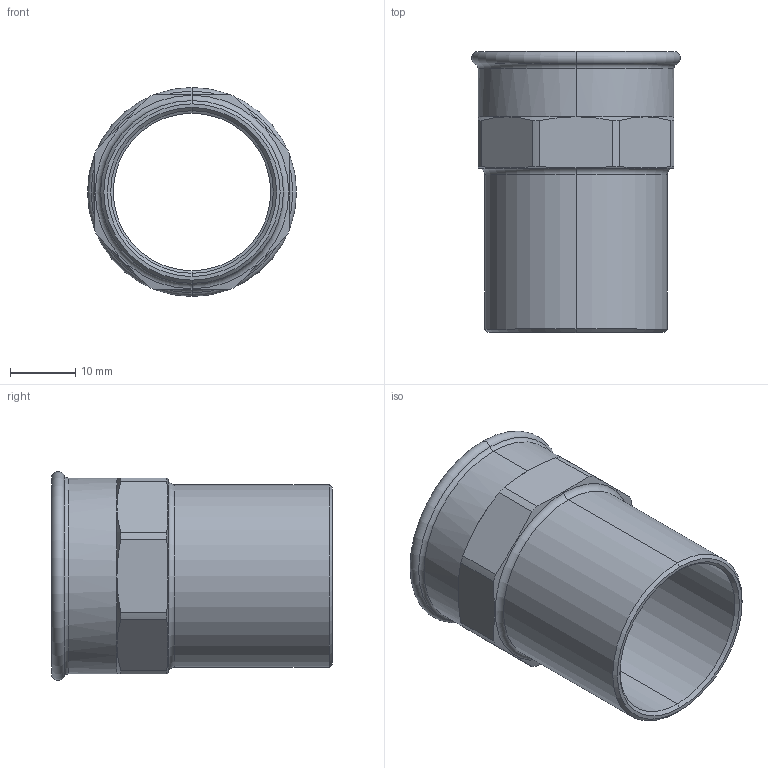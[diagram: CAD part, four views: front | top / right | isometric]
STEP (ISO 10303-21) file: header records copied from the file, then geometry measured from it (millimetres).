
FILE_DESCRIPTION (( 'STEP AP203' ), '1' );
FILE_NAME ('SP4281G Ø28 3-4.STEP', '2017-04-26T09:16:27', ( '' ), ( '' ), 'SwSTEP 2.0', 'SolidWorks 2016', '' );
FILE_SCHEMA (( 'CONFIG_CONTROL_DESIGN' ));
Length unit declared in the file: millimetre
Products named in the file (1): SP4281G Ø28 3-4
Bounding box: 32 x 43 x 32 mm (x, y, z)
Volume: 7909.3 mm3; surface area: 7754.3 mm2
Topology: 1 solids, 1 shells, 50 faces, 116 edges, 68 vertices
Faces by surface type: cone 18, cylinder 16, plane 10, torus 6
Entity records: 1567 total; most frequent: CARTESIAN_POINT 361, DIRECTION 248, ORIENTED_EDGE 232, EDGE_CURVE 116, AXIS2_PLACEMENT_3D 107, VERTEX_POINT 68, CIRCLE 56, EDGE_LOOP 52
